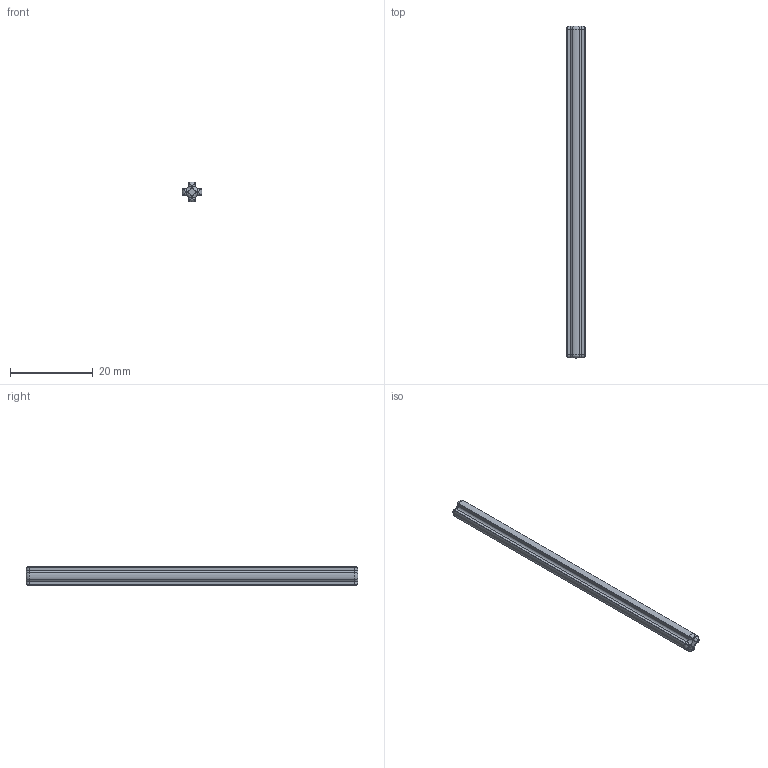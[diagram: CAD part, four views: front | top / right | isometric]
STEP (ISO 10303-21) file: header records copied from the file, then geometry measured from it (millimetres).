
FILE_DESCRIPTION(/* description */ ('Unknown'),/* implementation_level */ '2;1');
FILE_NAME(/* name */ 'Black_373726_JCA',/* time_stamp */ '2025-07-21T23:43:20+02:00',/* author */ ('Unknown'),/* organization */ ('Unknown'),/* preprocessor_version */ 'ST-DEVELOPER v19.4',/* originating_system */ 'Solid Edge',/* authorisation */ 'Unknown');
FILE_SCHEMA (('AUTOMOTIVE_DESIGN {1 0 10303 214 3 1 1}'));
Length unit declared in the file: millimetre
Products named in the file (1): Black_373726_JCA
Bounding box: 4.79 x 80 x 4.79 mm (x, y, z)
Volume: 1102.3 mm3; surface area: 1374.1 mm2
Topology: 1 solids, 1 shells, 74 faces, 168 edges, 80 vertices
Faces by surface type: cylinder 32, torus 16, bspline 16, plane 10
Entity records: 2142 total; most frequent: CARTESIAN_POINT 659, ORIENTED_EDGE 304, DIRECTION 302, EDGE_CURVE 152, AXIS2_PLACEMENT_3D 123, VERTEX_POINT 80, EDGE_LOOP 74, FACE_BOUND 74
